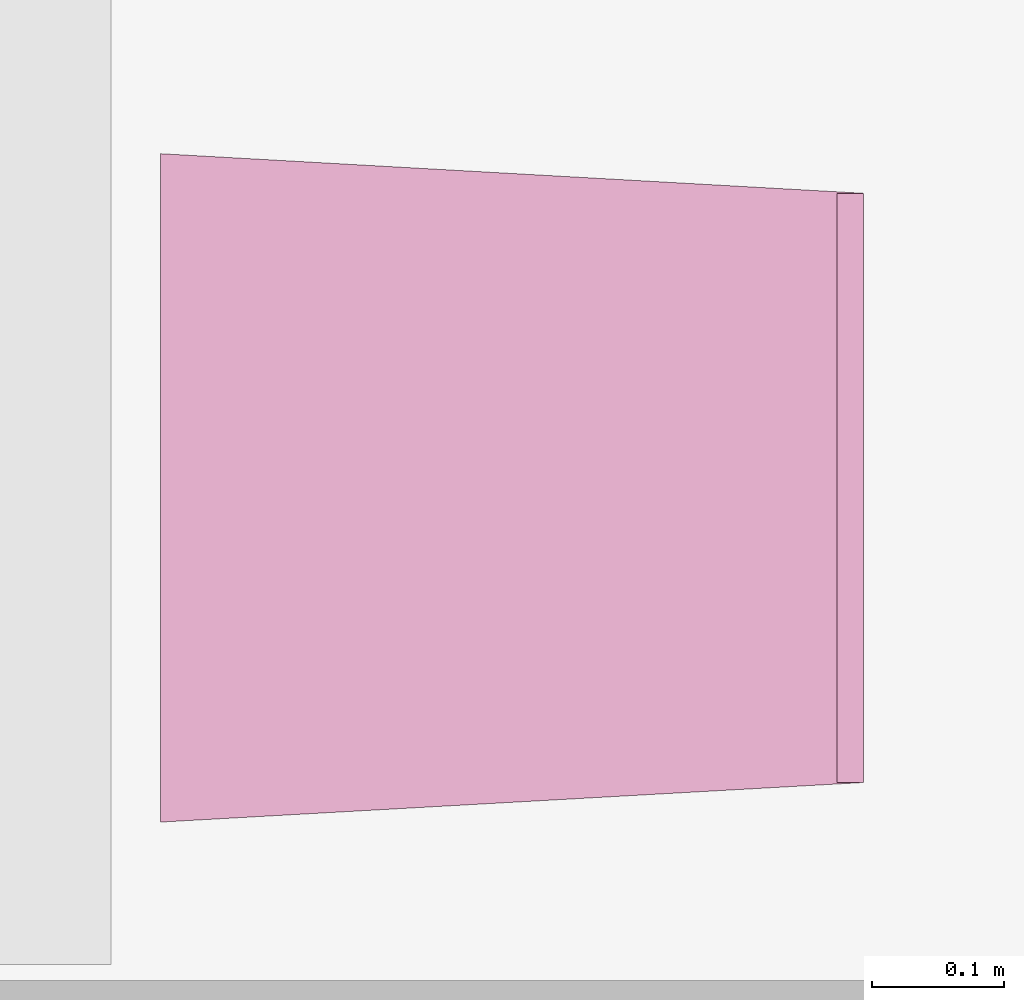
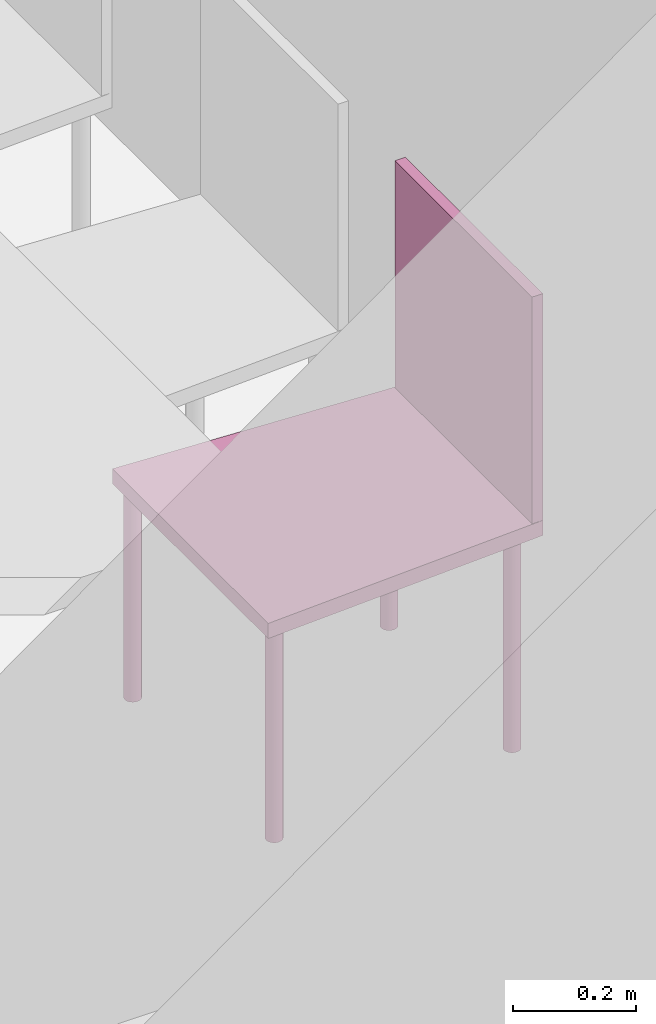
"""IFC4 building model written with IfcOpenShell, lengths in metres."""

import ifcopenshell
import ifcopenshell.guid

model = None  # the IFC model being written
_history = None  # IfcOwnerHistory: only IFC2X3 demands one
_inside = {}  # id of a spatial element -> (the spatial element, [elements in it])
_under = {}  # id of a project, library or spatial element -> (it, [spatial elements below it])
_declared = {}  # id of a project -> (the project, [libraries it declares])
_typed = {}  # id of a type object -> (the type object, [elements of that type])
_made_of = {}  # id of a material, layer set ... -> (it, [elements and type objects made of it])


def new_model(schema):
    """Start an empty IFC model of exactly this schema.

    Asked for "IFC4X3", IfcOpenShell would pick the latest addendum, in which some entities
    have other attributes; the version numbers below select the first issue.
    IFC2X3 requires an IfcOwnerHistory on every rooted entity: one is made here for all.
    """
    global model, _history
    if schema == "IFC4X3":
        model = ifcopenshell.file(schema_version=(4, 3, 0, 0))
    else:
        model = ifcopenshell.file(schema=schema)
    _inside.clear()
    _under.clear()
    _declared.clear()
    _typed.clear()
    _made_of.clear()
    _history = None
    if model.schema == "IFC2X3":
        org = make("IfcOrganization", Name="unknown")
        user = make(
            "IfcPersonAndOrganization",
            ThePerson=make("IfcPerson", FamilyName="unknown"),
            TheOrganization=org,
        )
        app = make(
            "IfcApplication",
            ApplicationDeveloper=org,
            Version="unknown",
            ApplicationFullName="unknown",
            ApplicationIdentifier="unknown",
        )
        _history = make(
            "IfcOwnerHistory",
            OwningUser=user,
            OwningApplication=app,
            ChangeAction="ADDED",
            CreationDate=0,
        )
    return model


def make(cls, **values):
    """One entity of the class cls with the attributes given. An attribute that is None is left unset."""
    return model.create_entity(
        cls, **{name: value for name, value in values.items() if value is not None}
    )


def entity(cls, *values):
    """Any entity or typed value of the class cls, its attributes in the order of the schema. None: left unset."""
    e = model.create_entity(cls)
    for i, value in enumerate(values):
        if value is not None:
            e[i] = value
    return e


def rooted(cls, **values):
    """An entity with a GlobalId (a new one), such as an element, a storey or a relation."""
    return make(cls, GlobalId=ifcopenshell.guid.new(), OwnerHistory=_history, **values)


def si_unit(unit_type, name, prefix=None):
    """IfcSIUnit, for example si_unit("LENGTHUNIT", "METRE", prefix="MILLI")."""
    return make("IfcSIUnit", UnitType=unit_type, Prefix=prefix, Name=name)


def converted_unit(unit_type, name, factor, base, dimensions=None, offset=None):
    """IfcConversionBasedUnit, such as the inch: factor (a typed value) times the base unit."""
    return make(
        "IfcConversionBasedUnit"
        if offset is None
        else "IfcConversionBasedUnitWithOffset",
        ConversionOffset=offset,
        Dimensions=None
        if dimensions is None
        else entity("IfcDimensionalExponents", *dimensions),
        UnitType=unit_type,
        Name=name,
        ConversionFactor=make(
            "IfcMeasureWithUnit", ValueComponent=factor, UnitComponent=base
        ),
    )


def derived_unit(unit_type, elements):
    """IfcDerivedUnit: a product of units, each with its exponent."""
    return make(
        "IfcDerivedUnit",
        Elements=[
            make("IfcDerivedUnitElement", Unit=unit, Exponent=power)
            for unit, power in elements
        ],
        UnitType=unit_type,
    )


def assignment(units):
    """IfcUnitAssignment: the units of a project."""
    return None if units is None else make("IfcUnitAssignment", Units=units)


def point(xyz):
    """IfcCartesianPoint."""
    return None if xyz is None else make("IfcCartesianPoint", Coordinates=xyz)


def direction(xyz):
    """IfcDirection."""
    return None if xyz is None else make("IfcDirection", DirectionRatios=xyz)


def frame(location, z_axis=None, x_axis=None):
    """IfcAxis2Placement3D, a coordinate frame: its origin and axes. An axis left out is left unset."""
    return make(
        "IfcAxis2Placement3D",
        Location=point(location),
        Axis=direction(z_axis),
        RefDirection=direction(x_axis),
    )


def origin():
    """The frame at (0, 0, 0) with its axes left unset."""
    return frame((0.0, 0.0, 0.0))


def place(relative_to, where):
    """IfcLocalPlacement: puts the frame where relative to a parent placement (None: the world)."""
    return make(
        "IfcLocalPlacement", PlacementRelTo=relative_to, RelativePlacement=where
    )


def context(
    kind, dimensions, precision=None, world=None, true_north=None, identifier=None
):
    """IfcGeometricRepresentationContext, for example the 3D "Model" context."""
    return make(
        "IfcGeometricRepresentationContext",
        ContextIdentifier=identifier,
        ContextType=kind,
        CoordinateSpaceDimension=dimensions,
        Precision=precision,
        WorldCoordinateSystem=world,
        TrueNorth=true_north,
    )


def subcontext(parent, identifier, kind, view, scale=None):
    """IfcGeometricRepresentationSubContext, for example "Body" below "Model"."""
    return make(
        "IfcGeometricRepresentationSubContext",
        ContextIdentifier=identifier,
        ContextType=kind,
        ParentContext=parent,
        TargetScale=scale,
        TargetView=view,
    )


def project(units=None, contexts=None):
    """IfcProject with its units and contexts."""
    return rooted(
        "IfcProject",
        Name="project",
        RepresentationContexts=contexts,
        UnitsInContext=assignment(units),
    )


def spatial(cls, under=None, at=None, **own):
    """A site, building, storey or space (cls), placed at a placement, below another one or the project."""
    s = rooted(cls, ObjectPlacement=at, **own)
    if under is not None:
        _under.setdefault(under.id(), (under, []))[1].append(s)
    return s


def faces_of(points, faces, orient=None, outer=None):
    """IfcFace entities. A face is a list of loops; a loop is a list of indices into points, from 0.

    orient and outer hold one flag for each loop. By default every Orientation is true, the
    first loop of a face is its IfcFaceOuterBound and the others are IfcFaceBound.
    """
    made = []
    for i, loops in enumerate(faces):
        bounds = []
        for j, loop in enumerate(loops):
            is_outer = j == 0 if outer is None else outer[i][j]
            bounds.append(
                make(
                    "IfcFaceOuterBound" if is_outer else "IfcFaceBound",
                    Bound=make("IfcPolyLoop", Polygon=[points[k] for k in loop]),
                    Orientation=True if orient is None else orient[i][j],
                )
            )
        made.append(make("IfcFace", Bounds=bounds))
    return made


def faceted_brep(points, faces, orient=None, outer=None, voids=None):
    """IfcFacetedBrep: a solid bounded by flat faces; with voids (closed shells), ...WithVoids."""
    shared = [point(p) for p in points]
    hull = make("IfcClosedShell", CfsFaces=faces_of(shared, faces, orient, outer))
    if voids is None:
        return make("IfcFacetedBrep", Outer=hull)
    return make(
        "IfcFacetedBrepWithVoids",
        Outer=hull,
        Voids=[
            make(cls, CfsFaces=faces_of(shared, fs, o, b)) for cls, fs, o, b in voids
        ],
    )


def shape(context_of_items, identifier, shape_type, items):
    """IfcShapeRepresentation: the items that make up one representation, for example the "Body"."""
    return make(
        "IfcShapeRepresentation",
        ContextOfItems=context_of_items,
        RepresentationIdentifier=identifier,
        RepresentationType=shape_type,
        Items=items,
    )


def made_of(thing, what):
    """Note that an element or type object is made of a material, layer set ...; save() writes the relation."""
    if what is not None:
        _made_of.setdefault(what.id(), (what, []))[1].append(thing)
    return thing


def element(
    cls,
    number,
    at=None,
    inside=None,
    cuts=None,
    type_object=None,
    material=None,
    context=None,
    identifier="Body",
    shape_type=None,
    held_by="IfcProductDefinitionShape",
    body=None,
    shapes=None,
    **own,
):
    """One element of the class cls, such as IfcWall. Its Tag is "e" and its number.

    at: its placement. inside: the storey or other place that contains it. cuts: it is an
    opening in that element (IfcRelVoidsElement). A single representation is given by context,
    identifier, shape_type and body (its items); several are given by shapes. held_by: the class
    of the entity that holds the representations. save() writes the other relations.
    """
    e = rooted(cls, Tag="e%d" % number, ObjectPlacement=at, **own)
    if body is not None:
        shapes = [shape(context, identifier, shape_type, body)]
    if shapes is not None:
        e.Representation = make(held_by, Representations=shapes)
    if inside is not None:
        _inside.setdefault(inside.id(), (inside, []))[1].append(e)
    if cuts is not None:
        rooted(
            "IfcRelVoidsElement", RelatingBuildingElement=cuts, RelatedOpeningElement=e
        )
    if type_object is not None:
        _typed.setdefault(type_object.id(), (type_object, []))[1].append(e)
    return made_of(e, material)


def aggregate(whole, parts):
    """IfcRelAggregates: a whole, such as a stair, and the parts it consists of."""
    return rooted("IfcRelAggregates", RelatingObject=whole, RelatedObjects=parts)


def save(model, path):
    """Write the relations noted so far, then the file.

    IfcRelAggregates (storeys below a building ...), IfcRelContainedInSpatialStructure (elements
    in a storey), IfcRelDefinesByType, IfcRelAssociatesMaterial and IfcRelDeclares: one each for
    every whole, place, type object, material and project.
    """
    for whole, parts in _under.values():
        aggregate(whole, parts)
    for where, things in _inside.values():
        rooted(
            "IfcRelContainedInSpatialStructure",
            RelatedElements=things,
            RelatingStructure=where,
        )
    for kind, things in _typed.values():
        rooted("IfcRelDefinesByType", RelatedObjects=things, RelatingType=kind)
    for what, things in _made_of.values():
        rooted("IfcRelAssociatesMaterial", RelatedObjects=things, RelatingMaterial=what)
    for by, libraries in _declared.values():
        rooted("IfcRelDeclares", RelatingContext=by, RelatedDefinitions=libraries)
    model.write(path)


model = new_model("IFC4")

# Units and contexts
model_context = context("Model", 3, precision=1e-05, world=origin())
body_context = subcontext(model_context, "Body", "Model", "MODEL_VIEW")
ifc_project = project(units=[si_unit("LENGTHUNIT", "METRE"), si_unit("AREAUNIT", "SQUARE_METRE"), si_unit("VOLUMEUNIT", "CUBIC_METRE"), si_unit("MASSUNIT", "GRAM", prefix="KILO"), converted_unit("PLANEANGLEUNIT", "DEGREE", entity("IfcPlaneAngleMeasure", 0.0174532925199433), si_unit("PLANEANGLEUNIT", "RADIAN"), dimensions=[0, 0, 0, 0, 0, 0, 0]), derived_unit("THERMALTRANSMITTANCEUNIT", [(si_unit("POWERUNIT", "WATT"), 1), (si_unit("THERMODYNAMICTEMPERATUREUNIT", "KELVIN"), -1), (si_unit("LENGTHUNIT", "METRE"), -2)]), derived_unit("VOLUMETRICFLOWRATEUNIT", [(si_unit("LENGTHUNIT", "METRE"), 3), (converted_unit("TIMEUNIT", "hour", entity("IfcTimeMeasure", 3600.0), si_unit("TIMEUNIT", "SECOND"), dimensions=[0, 0, 1, 0, 0, 0, 0]), -1), (si_unit("LENGTHUNIT", "METRE"), -1)])], contexts=[model_context])

# Building, storeys
building_placement = place(None, origin())
building = spatial("IfcBuilding", under=ifc_project, at=building_placement, Name="HABITATGE PLURIFAMILIAR", CompositionType="ELEMENT")
storey_1_placement = place(building_placement, frame((0.0, 0.0, 3.35)))
storey_1 = spatial("IfcBuildingStorey", under=building, at=storey_1_placement, Name="PLANTA  ALTELL", CompositionType="ELEMENT", Elevation=3.35)
storey_2_placement = place(storey_1_placement, origin())
storey_2 = spatial("IfcBuildingStorey", under=storey_1, at=storey_2_placement, Name="NOU", CompositionType="PARTIAL")

# Furniture
furniture_placement = place(storey_2_placement, frame((404.789669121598, 13.3607290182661, 0.0499839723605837)))
element("IfcFurniture", 1, at=furniture_placement, inside=storey_2, Name="Cadira confident_PA", context=body_context, shape_type="Brep", body=[
    faceted_brep([(0.0250324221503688, 0.0391636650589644, 0.0), (0.0224394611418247, 0.0389254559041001, 0.0), (0.0199272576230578, 0.038240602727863, 0.0), (0.0175721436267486, 0.0371299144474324, 0.0), (0.0154456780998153, 0.0356271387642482, 0.0), (0.0136124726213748, 0.0337779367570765, 0.0), (0.0121282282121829, 0.0316384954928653, 0.0), (0.0110380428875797, 0.0292738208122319, 0.0), (0.010375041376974, 0.0267557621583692, 0.0), (0.0101593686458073, 0.0241608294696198, 0.0), (0.010397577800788, 0.0215678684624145, 0.0), (0.0110824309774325, 0.0190556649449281, 0.0), (0.0121931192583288, 0.0167005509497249, 0.0), (0.0136958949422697, 0.0145740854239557, 0.0), (0.0155450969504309, 0.0127408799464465, 0.0), (0.0176845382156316, 0.0112566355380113, 0.0), (0.0200492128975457, 0.010166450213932, 0.0), (0.0225672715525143, 0.00950344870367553, 0.0), (0.0251622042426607, 0.00928777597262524, 0.0), (0.0277551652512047, 0.00952598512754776, 0.0), (0.0302673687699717, 0.0102108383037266, 0.0), (0.0326224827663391, 0.0113215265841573, 0.0), (0.0347489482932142, 0.0128243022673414, 0.0), (0.0365821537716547, 0.0146735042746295, 0.0), (0.0380663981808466, 0.0168129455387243, 0.0), (0.0391565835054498, 0.019177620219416, 0.0), (0.0398195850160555, 0.0216956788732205, 0.0), (0.0400352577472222, 0.0242906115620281, 0.0), (0.0397970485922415, 0.0268835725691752, 0.0), (0.0391121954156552, 0.0293957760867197, 0.0), (0.0380015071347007, 0.0317508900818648, 0.0), (0.0364987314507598, 0.0338773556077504, 0.0), (0.0346495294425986, 0.0357105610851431, 0.0), (0.0325100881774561, 0.0371948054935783, 0.0), (0.030145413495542, 0.0382849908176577, 0.0), (0.0276273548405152, 0.0389479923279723, 0.0), (0.0250324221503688, 0.0391636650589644, 0.448281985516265), (0.0276273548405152, 0.0389479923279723, 0.448281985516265), (0.030145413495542, 0.0382849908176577, 0.448281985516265), (0.0325100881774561, 0.0371948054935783, 0.448281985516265), (0.0346495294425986, 0.0357105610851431, 0.448281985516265), (0.0364987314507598, 0.0338773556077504, 0.448281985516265), (0.0380015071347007, 0.0317508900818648, 0.448281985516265), (0.0391121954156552, 0.0293957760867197, 0.448281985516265), (0.0397970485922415, 0.0268835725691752, 0.448281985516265), (0.0400352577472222, 0.0242906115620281, 0.448281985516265), (0.0398195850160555, 0.0216956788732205, 0.448281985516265), (0.0391565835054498, 0.019177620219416, 0.448281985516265), (0.0380663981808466, 0.0168129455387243, 0.448281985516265), (0.0365821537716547, 0.0146735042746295, 0.448281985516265), (0.0347489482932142, 0.0128243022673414, 0.448281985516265), (0.0326224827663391, 0.0113215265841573, 0.448281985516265), (0.0302673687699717, 0.0102108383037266, 0.448281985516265), (0.0277551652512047, 0.00952598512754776, 0.448281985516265), (0.0251622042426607, 0.00928777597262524, 0.448281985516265), (0.0225672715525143, 0.00950344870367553, 0.448281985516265), (0.0200492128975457, 0.010166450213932, 0.448281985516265), (0.0176845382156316, 0.0112566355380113, 0.448281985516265), (0.0155450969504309, 0.0127408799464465, 0.448281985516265), (0.0136958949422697, 0.0145740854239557, 0.448281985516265), (0.0121931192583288, 0.0167005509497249, 0.448281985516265), (0.0110824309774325, 0.0190556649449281, 0.448281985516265), (0.010397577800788, 0.0215678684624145, 0.448281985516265), (0.0101593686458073, 0.0241608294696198, 0.448281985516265), (0.010375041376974, 0.0267557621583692, 0.448281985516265), (0.0110380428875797, 0.0292738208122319, 0.448281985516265), (0.0121282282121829, 0.0316384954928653, 0.448281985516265), (0.0136124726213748, 0.0337779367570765, 0.448281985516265), (0.0154456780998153, 0.0356271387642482, 0.448281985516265), (0.0175721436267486, 0.0371299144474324, 0.448281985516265), (0.0199272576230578, 0.038240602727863, 0.448281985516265), (0.0224394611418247, 0.0389254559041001, 0.448281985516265)], [[[0, 1, 2, 3, 4, 5, 6, 7, 8, 9, 10, 11, 12, 13, 14, 15, 16, 17, 18, 19, 20, 21, 22, 23, 24, 25, 26, 27, 28, 29, 30, 31, 32, 33, 34, 35]], [[36, 37, 38, 39, 40, 41, 42, 43, 44, 45, 46, 47, 48, 49, 50, 51, 52, 53, 54, 55, 56, 57, 58, 59, 60, 61, 62, 63, 64, 65, 66, 67, 68, 69, 70, 71]], [[35, 37, 36, 0]], [[34, 38, 37, 35]], [[33, 39, 38, 34]], [[32, 40, 39, 33]], [[31, 41, 40, 32]], [[30, 42, 41, 31]], [[29, 43, 42, 30]], [[28, 44, 43, 29]], [[27, 45, 44, 28]], [[26, 46, 45, 27]], [[25, 47, 46, 26]], [[24, 48, 47, 25]], [[23, 49, 48, 24]], [[22, 50, 49, 23]], [[21, 51, 50, 22]], [[20, 52, 51, 21]], [[19, 53, 52, 20]], [[18, 54, 53, 19]], [[17, 55, 54, 18]], [[16, 56, 55, 17]], [[15, 57, 56, 16]], [[14, 58, 57, 15]], [[13, 59, 58, 14]], [[12, 60, 59, 13]], [[11, 61, 60, 12]], [[10, 62, 61, 11]], [[9, 63, 62, 10]], [[8, 64, 63, 9]], [[7, 65, 64, 8]], [[6, 66, 65, 7]], [[5, 67, 66, 6]], [[4, 68, 67, 5]], [[3, 69, 68, 4]], [[2, 70, 69, 3]], [[1, 71, 70, 2]], [[0, 36, 71, 1]]], orient=[[False], [False], [False], [False], [False], [False], [False], [False], [False], [False], [False], [False], [False], [False], [False], [False], [False], [False], [False], [False], [False], [False], [False], [False], [False], [False], [False], [False], [False], [False], [False], [False], [False], [False], [False], [False], [False], [False]]),
    faceted_brep([(0.487439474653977, 0.0668016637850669, 0.0), (0.484846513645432, 0.0665634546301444, 0.0), (0.482334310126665, 0.0658786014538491, 0.0), (0.479979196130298, 0.0647679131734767, 0.0), (0.477852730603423, 0.0632651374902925, 0.0), (0.476019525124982, 0.0614159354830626, 0.0), (0.474535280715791, 0.0592764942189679, 0.0), (0.473445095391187, 0.056911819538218, 0.0), (0.472782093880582, 0.0543937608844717, 0.0), (0.472566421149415, 0.0517988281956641, 0.0), (0.472804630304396, 0.0492058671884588, 0.0), (0.473489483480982, 0.0466936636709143, 0.0), (0.474600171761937, 0.0443385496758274, 0.0), (0.476102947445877, 0.0422120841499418, 0.0), (0.477952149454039, 0.0403788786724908, 0.0), (0.480091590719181, 0.0388946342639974, 0.0), (0.482456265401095, 0.0378044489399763, 0.0), (0.484974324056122, 0.0371414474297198, 0.0), (0.487569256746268, 0.0369257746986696, 0.0), (0.490162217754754, 0.0371639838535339, 0.0), (0.492674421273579, 0.0378488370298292, 0.0), (0.495029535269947, 0.0389595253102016, 0.0), (0.497156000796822, 0.0404623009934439, 0.0), (0.498989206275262, 0.0423115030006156, 0.0), (0.500473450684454, 0.0444509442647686, 0.0), (0.501563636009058, 0.0468156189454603, 0.0), (0.502226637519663, 0.0493336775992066, 0.0), (0.50244231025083, 0.0519286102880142, 0.0), (0.502204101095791, 0.0545215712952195, 0.0), (0.501519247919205, 0.057033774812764, 0.0), (0.500408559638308, 0.0593888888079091, 0.0), (0.498905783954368, 0.0615153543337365, 0.0), (0.497056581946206, 0.0633485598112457, 0.0), (0.494917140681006, 0.0648328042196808, 0.0), (0.492552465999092, 0.065922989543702, 0.0), (0.490034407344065, 0.0665859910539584, 0.0), (0.487439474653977, 0.0668016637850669, 0.448281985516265), (0.490034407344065, 0.0665859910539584, 0.448281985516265), (0.492552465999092, 0.065922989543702, 0.448281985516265), (0.494917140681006, 0.0648328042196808, 0.448281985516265), (0.497056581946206, 0.0633485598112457, 0.448281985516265), (0.498905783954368, 0.0615153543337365, 0.448281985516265), (0.500408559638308, 0.0593888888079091, 0.448281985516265), (0.501519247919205, 0.057033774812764, 0.448281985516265), (0.502204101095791, 0.0545215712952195, 0.448281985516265), (0.50244231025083, 0.0519286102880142, 0.448281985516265), (0.502226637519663, 0.0493336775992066, 0.448281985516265), (0.501563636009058, 0.0468156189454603, 0.448281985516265), (0.500473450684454, 0.0444509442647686, 0.448281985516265), (0.498989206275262, 0.0423115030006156, 0.448281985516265), (0.497156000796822, 0.0404623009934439, 0.448281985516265), (0.495029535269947, 0.0389595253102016, 0.448281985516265), (0.492674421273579, 0.0378488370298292, 0.448281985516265), (0.490162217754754, 0.0371639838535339, 0.448281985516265), (0.487569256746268, 0.0369257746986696, 0.448281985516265), (0.484974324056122, 0.0371414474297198, 0.448281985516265), (0.482456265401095, 0.0378044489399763, 0.448281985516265), (0.480091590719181, 0.0388946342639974, 0.448281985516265), (0.477952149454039, 0.0403788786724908, 0.448281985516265), (0.476102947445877, 0.0422120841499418, 0.448281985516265), (0.474600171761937, 0.0443385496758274, 0.448281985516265), (0.473489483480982, 0.0466936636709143, 0.448281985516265), (0.472804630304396, 0.0492058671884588, 0.448281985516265), (0.472566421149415, 0.0517988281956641, 0.448281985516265), (0.472782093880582, 0.0543937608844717, 0.448281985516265), (0.473445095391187, 0.056911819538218, 0.448281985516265), (0.474535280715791, 0.0592764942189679, 0.448281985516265), (0.476019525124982, 0.0614159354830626, 0.448281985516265), (0.477852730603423, 0.0632651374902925, 0.448281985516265), (0.479979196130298, 0.0647679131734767, 0.448281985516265), (0.482334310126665, 0.0658786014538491, 0.448281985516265), (0.484846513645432, 0.0665634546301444, 0.448281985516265)], [[[0, 1, 2, 3, 4, 5, 6, 7, 8, 9, 10, 11, 12, 13, 14, 15, 16, 17, 18, 19, 20, 21, 22, 23, 24, 25, 26, 27, 28, 29, 30, 31, 32, 33, 34, 35]], [[36, 37, 38, 39, 40, 41, 42, 43, 44, 45, 46, 47, 48, 49, 50, 51, 52, 53, 54, 55, 56, 57, 58, 59, 60, 61, 62, 63, 64, 65, 66, 67, 68, 69, 70, 71]], [[35, 37, 36, 0]], [[34, 38, 37, 35]], [[33, 39, 38, 34]], [[32, 40, 39, 33]], [[31, 41, 40, 32]], [[30, 42, 41, 31]], [[29, 43, 42, 30]], [[28, 44, 43, 29]], [[27, 45, 44, 28]], [[26, 46, 45, 27]], [[25, 47, 46, 26]], [[24, 48, 47, 25]], [[23, 49, 48, 24]], [[22, 50, 49, 23]], [[21, 51, 50, 22]], [[20, 52, 51, 21]], [[19, 53, 52, 20]], [[18, 54, 53, 19]], [[17, 55, 54, 18]], [[16, 56, 55, 17]], [[15, 57, 56, 16]], [[14, 58, 57, 15]], [[13, 59, 58, 14]], [[12, 60, 59, 13]], [[11, 61, 60, 12]], [[10, 62, 61, 11]], [[9, 63, 62, 10]], [[8, 64, 63, 9]], [[7, 65, 64, 8]], [[6, 66, 65, 7]], [[5, 67, 66, 6]], [[4, 68, 67, 5]], [[3, 69, 68, 4]], [[2, 70, 69, 3]], [[1, 71, 70, 2]], [[0, 36, 71, 1]]], orient=[[False], [False], [False], [False], [False], [False], [False], [False], [False], [False], [False], [False], [False], [False], [False], [False], [False], [False], [False], [False], [False], [False], [False], [False], [False], [False], [False], [False], [False], [False], [False], [False], [False], [False], [False], [False], [False], [False]]),
    faceted_brep([(0.0250324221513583, 0.499163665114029, 0.0), (0.0224394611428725, 0.498925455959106, 0.0), (0.0199272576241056, 0.498240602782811, 0.0), (0.0175721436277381, 0.497129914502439, 0.0), (0.0154456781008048, 0.495627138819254, 0.0), (0.0136124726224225, 0.493777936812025, 0.0), (0.0121282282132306, 0.491638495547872, 0.0), (0.0110380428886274, 0.489273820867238, 0.0), (0.0103750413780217, 0.486755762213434, 0.0), (0.0101593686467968, 0.484160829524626, 0.0), (0.0103975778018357, 0.481567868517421, 0.0), (0.0110824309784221, 0.479055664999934, 0.0), (0.0121931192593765, 0.476700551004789, 0.0), (0.0136958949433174, 0.474574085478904, 0.0), (0.0155450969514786, 0.472740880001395, 0.0), (0.0176845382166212, 0.471256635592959, 0.0), (0.0200492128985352, 0.470166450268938, 0.0), (0.022567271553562, 0.469503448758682, 0.0), (0.0251622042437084, 0.469287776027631, 0.0), (0.0277551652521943, 0.469525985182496, 0.0), (0.0302673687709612, 0.470210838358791, 0.0), (0.0326224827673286, 0.471321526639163, 0.0), (0.0347489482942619, 0.472824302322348, 0.0), (0.0365821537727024, 0.474673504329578, 0.0), (0.0380663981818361, 0.476812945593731, 0.0), (0.0391565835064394, 0.479177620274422, 0.0), (0.039819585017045, 0.481695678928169, 0.0), (0.0400352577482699, 0.484290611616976, 0.0), (0.039797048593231, 0.486883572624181, 0.0), (0.0391121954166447, 0.489395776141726, 0.0), (0.0380015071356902, 0.491750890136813, 0.0), (0.0364987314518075, 0.493877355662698, 0.0), (0.0346495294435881, 0.495710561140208, 0.0), (0.0325100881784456, 0.497194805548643, 0.0), (0.0301454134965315, 0.498284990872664, 0.0), (0.0276273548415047, 0.49894799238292, 0.0), (0.0250324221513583, 0.499163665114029, 0.448281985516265), (0.0276273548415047, 0.49894799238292, 0.448281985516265), (0.0301454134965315, 0.498284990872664, 0.448281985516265), (0.0325100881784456, 0.497194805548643, 0.448281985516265), (0.0346495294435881, 0.495710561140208, 0.448281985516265), (0.0364987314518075, 0.493877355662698, 0.448281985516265), (0.0380015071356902, 0.491750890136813, 0.448281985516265), (0.0391121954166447, 0.489395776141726, 0.448281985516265), (0.039797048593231, 0.486883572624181, 0.448281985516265), (0.0400352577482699, 0.484290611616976, 0.448281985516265), (0.039819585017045, 0.481695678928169, 0.448281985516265), (0.0391565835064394, 0.479177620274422, 0.448281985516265), (0.0380663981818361, 0.476812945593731, 0.448281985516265), (0.0365821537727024, 0.474673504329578, 0.448281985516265), (0.0347489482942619, 0.472824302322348, 0.448281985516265), (0.0326224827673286, 0.471321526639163, 0.448281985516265), (0.0302673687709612, 0.470210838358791, 0.448281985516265), (0.0277551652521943, 0.469525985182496, 0.448281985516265), (0.0251622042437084, 0.469287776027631, 0.448281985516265), (0.022567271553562, 0.469503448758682, 0.448281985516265), (0.0200492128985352, 0.470166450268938, 0.448281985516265), (0.0176845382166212, 0.471256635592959, 0.448281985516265), (0.0155450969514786, 0.472740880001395, 0.448281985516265), (0.0136958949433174, 0.474574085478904, 0.448281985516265), (0.0121931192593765, 0.476700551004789, 0.448281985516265), (0.0110824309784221, 0.479055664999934, 0.448281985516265), (0.0103975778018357, 0.481567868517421, 0.448281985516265), (0.0101593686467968, 0.484160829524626, 0.448281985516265), (0.0103750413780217, 0.486755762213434, 0.448281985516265), (0.0110380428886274, 0.489273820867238, 0.448281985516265), (0.0121282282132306, 0.491638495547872, 0.448281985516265), (0.0136124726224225, 0.493777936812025, 0.448281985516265), (0.0154456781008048, 0.495627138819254, 0.448281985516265), (0.0175721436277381, 0.497129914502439, 0.448281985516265), (0.0199272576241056, 0.498240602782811, 0.448281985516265), (0.0224394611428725, 0.498925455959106, 0.448281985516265)], [[[0, 1, 2, 3, 4, 5, 6, 7, 8, 9, 10, 11, 12, 13, 14, 15, 16, 17, 18, 19, 20, 21, 22, 23, 24, 25, 26, 27, 28, 29, 30, 31, 32, 33, 34, 35]], [[36, 37, 38, 39, 40, 41, 42, 43, 44, 45, 46, 47, 48, 49, 50, 51, 52, 53, 54, 55, 56, 57, 58, 59, 60, 61, 62, 63, 64, 65, 66, 67, 68, 69, 70, 71]], [[35, 37, 36, 0]], [[34, 38, 37, 35]], [[33, 39, 38, 34]], [[32, 40, 39, 33]], [[31, 41, 40, 32]], [[30, 42, 41, 31]], [[29, 43, 42, 30]], [[28, 44, 43, 29]], [[27, 45, 44, 28]], [[26, 46, 45, 27]], [[25, 47, 46, 26]], [[24, 48, 47, 25]], [[23, 49, 48, 24]], [[22, 50, 49, 23]], [[21, 51, 50, 22]], [[20, 52, 51, 21]], [[19, 53, 52, 20]], [[18, 54, 53, 19]], [[17, 55, 54, 18]], [[16, 56, 55, 17]], [[15, 57, 56, 16]], [[14, 58, 57, 15]], [[13, 59, 58, 14]], [[12, 60, 59, 13]], [[11, 61, 60, 12]], [[10, 62, 61, 11]], [[9, 63, 62, 10]], [[8, 64, 63, 9]], [[7, 65, 64, 8]], [[6, 66, 65, 7]], [[5, 67, 66, 6]], [[4, 68, 67, 5]], [[3, 69, 68, 4]], [[2, 70, 69, 3]], [[1, 71, 70, 2]], [[0, 36, 71, 1]]], orient=[[False], [False], [False], [False], [False], [False], [False], [False], [False], [False], [False], [False], [False], [False], [False], [False], [False], [False], [False], [False], [False], [False], [False], [False], [False], [False], [False], [False], [False], [False], [False], [False], [False], [False], [False], [False], [False], [False]]),
    faceted_brep([(0.48743947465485, 0.466801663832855, 0.0), (0.484846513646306, 0.466563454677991, 0.0), (0.482334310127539, 0.465878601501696, 0.0), (0.479979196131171, 0.464767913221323, 0.0), (0.477852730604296, 0.463265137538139, 0.0), (0.476019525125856, 0.461415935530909, 0.0), (0.474535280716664, 0.459276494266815, 0.0), (0.47344509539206, 0.456911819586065, 0.0), (0.472782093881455, 0.454393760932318, 0.0), (0.472566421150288, 0.451798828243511, 0.0), (0.472804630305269, 0.449205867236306, 0.0), (0.473489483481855, 0.446693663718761, 0.0), (0.47460017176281, 0.444338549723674, 0.0), (0.47610294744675, 0.442212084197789, 0.0), (0.477952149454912, 0.440378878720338, 0.0), (0.480091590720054, 0.438894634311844, 0.0), (0.482456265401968, 0.437804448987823, 0.0), (0.484974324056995, 0.437141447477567, 0.0), (0.487569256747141, 0.436925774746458, 0.0), (0.490162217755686, 0.437163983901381, 0.0), (0.492674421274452, 0.437848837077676, 0.0), (0.495029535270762, 0.438959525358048, 0.0), (0.497156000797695, 0.440462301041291, 0.0), (0.498989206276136, 0.442311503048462, 0.0), (0.500473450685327, 0.444450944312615, 0.0), (0.501563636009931, 0.446815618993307, 0.0), (0.502226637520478, 0.449333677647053, 0.0), (0.502442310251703, 0.451928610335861, 0.0), (0.502204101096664, 0.454521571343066, 0.0), (0.501519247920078, 0.457033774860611, 0.0), (0.500408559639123, 0.459388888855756, 0.0), (0.498905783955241, 0.461515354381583, 0.0), (0.497056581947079, 0.463348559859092, 0.0), (0.494917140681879, 0.464832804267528, 0.0), (0.492552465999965, 0.465922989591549, 0.0), (0.490034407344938, 0.466585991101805, 0.0), (0.48743947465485, 0.466801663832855, 0.448281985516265), (0.490034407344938, 0.466585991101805, 0.448281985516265), (0.492552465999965, 0.465922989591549, 0.448281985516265), (0.494917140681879, 0.464832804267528, 0.448281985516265), (0.497056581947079, 0.463348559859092, 0.448281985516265), (0.498905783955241, 0.461515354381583, 0.448281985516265), (0.500408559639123, 0.459388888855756, 0.448281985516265), (0.501519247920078, 0.457033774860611, 0.448281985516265), (0.502204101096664, 0.454521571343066, 0.448281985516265), (0.502442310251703, 0.451928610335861, 0.448281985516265), (0.502226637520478, 0.449333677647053, 0.448281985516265), (0.501563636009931, 0.446815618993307, 0.448281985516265), (0.500473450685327, 0.444450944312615, 0.448281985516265), (0.498989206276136, 0.442311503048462, 0.448281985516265), (0.497156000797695, 0.440462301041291, 0.448281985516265), (0.495029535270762, 0.438959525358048, 0.448281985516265), (0.492674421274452, 0.437848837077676, 0.448281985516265), (0.490162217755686, 0.437163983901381, 0.448281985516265), (0.487569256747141, 0.436925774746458, 0.448281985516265), (0.484974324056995, 0.437141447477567, 0.448281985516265), (0.482456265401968, 0.437804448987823, 0.448281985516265), (0.480091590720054, 0.438894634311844, 0.448281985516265), (0.477952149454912, 0.440378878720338, 0.448281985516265), (0.47610294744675, 0.442212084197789, 0.448281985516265), (0.47460017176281, 0.444338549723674, 0.448281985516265), (0.473489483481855, 0.446693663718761, 0.448281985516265), (0.472804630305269, 0.449205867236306, 0.448281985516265), (0.472566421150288, 0.451798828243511, 0.448281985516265), (0.472782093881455, 0.454393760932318, 0.448281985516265), (0.47344509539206, 0.456911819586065, 0.448281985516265), (0.474535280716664, 0.459276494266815, 0.448281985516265), (0.476019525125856, 0.461415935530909, 0.448281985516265), (0.477852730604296, 0.463265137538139, 0.448281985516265), (0.479979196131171, 0.464767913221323, 0.448281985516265), (0.482334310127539, 0.465878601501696, 0.448281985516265), (0.484846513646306, 0.466563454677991, 0.448281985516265)], [[[0, 1, 2, 3, 4, 5, 6, 7, 8, 9, 10, 11, 12, 13, 14, 15, 16, 17, 18, 19, 20, 21, 22, 23, 24, 25, 26, 27, 28, 29, 30, 31, 32, 33, 34, 35]], [[36, 37, 38, 39, 40, 41, 42, 43, 44, 45, 46, 47, 48, 49, 50, 51, 52, 53, 54, 55, 56, 57, 58, 59, 60, 61, 62, 63, 64, 65, 66, 67, 68, 69, 70, 71]], [[35, 37, 36, 0]], [[34, 38, 37, 35]], [[33, 39, 38, 34]], [[32, 40, 39, 33]], [[31, 41, 40, 32]], [[30, 42, 41, 31]], [[29, 43, 42, 30]], [[28, 44, 43, 29]], [[27, 45, 44, 28]], [[26, 46, 45, 27]], [[25, 47, 46, 26]], [[24, 48, 47, 25]], [[23, 49, 48, 24]], [[22, 50, 49, 23]], [[21, 51, 50, 22]], [[20, 52, 51, 21]], [[19, 53, 52, 20]], [[18, 54, 53, 19]], [[17, 55, 54, 18]], [[16, 56, 55, 17]], [[15, 57, 56, 16]], [[14, 58, 57, 15]], [[13, 59, 58, 14]], [[12, 60, 59, 13]], [[11, 61, 60, 12]], [[10, 62, 61, 11]], [[9, 63, 62, 10]], [[8, 64, 63, 9]], [[7, 65, 64, 8]], [[6, 66, 65, 7]], [[5, 67, 66, 6]], [[4, 68, 67, 5]], [[3, 69, 68, 4]], [[2, 70, 69, 3]], [[1, 71, 70, 2]], [[0, 36, 71, 1]]], orient=[[False], [False], [False], [False], [False], [False], [False], [False], [False], [False], [False], [False], [False], [False], [False], [False], [False], [False], [False], [False], [False], [False], [False], [False], [False], [False], [False], [False], [False], [False], [False], [False], [False], [False], [False], [False], [False], [False]]),
    faceted_brep([(0.532607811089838, 0.476514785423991, 0.418281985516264), (0.0, 0.506514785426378, 0.418281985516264), (0.0, 0.0, 0.418281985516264), (0.532607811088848, 0.0300000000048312, 0.418281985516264), (0.0, 0.506514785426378, 0.448281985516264), (0.532607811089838, 0.476514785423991, 0.448281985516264), (0.532607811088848, 0.0300000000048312, 0.448281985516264), (0.0, 0.0, 0.448281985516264)], [[[0, 1, 2, 3]], [[4, 5, 6, 7]], [[1, 0, 5, 4]], [[2, 1, 4, 7]], [[3, 2, 7, 6]], [[0, 3, 6, 5]]], orient=[[False], [False], [False], [False], [False], [False]]),
    faceted_brep([(0.512607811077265, 0.476514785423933, 0.448281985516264), (0.512607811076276, 0.0300000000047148, 0.448281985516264), (0.53260781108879, 0.0300000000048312, 0.448281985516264), (0.53260781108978, 0.476514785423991, 0.448281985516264), (0.512607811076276, 0.0300000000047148, 0.898281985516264), (0.512607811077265, 0.476514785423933, 0.898281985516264), (0.53260781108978, 0.476514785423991, 0.898281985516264), (0.53260781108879, 0.0300000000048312, 0.898281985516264)], [[[0, 1, 2, 3]], [[4, 5, 6, 7]], [[1, 0, 5, 4]], [[2, 1, 4, 7]], [[3, 2, 7, 6]], [[0, 3, 6, 5]]], orient=[[False], [False], [False], [False], [False], [False]]),
])

save(model, "model.ifc")
